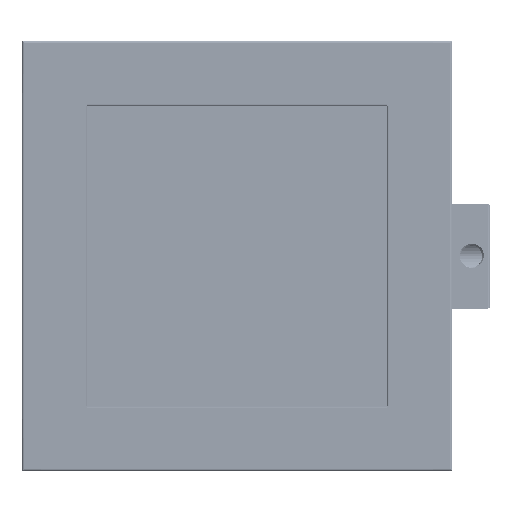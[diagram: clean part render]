
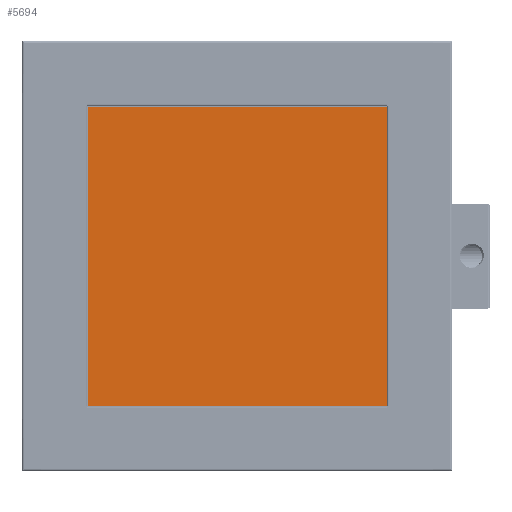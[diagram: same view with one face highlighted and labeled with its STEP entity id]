
A CAD part, front view. The second image highlights one B-rep face of the part: STEP entity #5694.
In plain terms, the highlighted planar face has unit normal (0, -1, 0).
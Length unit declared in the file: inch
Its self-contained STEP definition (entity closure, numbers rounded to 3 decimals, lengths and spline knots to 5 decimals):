
#1408 = FACE_OUTER_BOUND ( 'NONE', #9910, .T. ) ;
#2311 = DIRECTION ( 'NONE',  ( 0., 0., -1. ) ) ;
#2579 = CARTESIAN_POINT ( 'NONE',  ( 2.245, 0., -2.245 ) ) ;
#2685 = CARTESIAN_POINT ( 'NONE',  ( 0.095, 0., -2.245 ) ) ;
#4888 = LINE ( 'NONE', #13666, #5130 ) ;
#5130 = VECTOR ( 'NONE', #20304, 39.37008 ) ;
#5694 = ADVANCED_FACE ( 'NONE', ( #1408 ), #10201, .T. ) ;
#7039 = DIRECTION ( 'NONE',  ( 0., 0., 1. ) ) ;
#7093 = VERTEX_POINT ( 'NONE', #17727 ) ;
#7729 = VERTEX_POINT ( 'NONE', #28408 ) ;
#9035 = EDGE_CURVE ( 'NONE', #17307, #7093, #18268, .T. ) ;
#9910 = EDGE_LOOP ( 'NONE', ( #11873, #16632, #16730, #23016 ) ) ;
#10201 = PLANE ( 'NONE',  #16611 ) ;
#11873 = ORIENTED_EDGE ( 'NONE', *, *, #9035, .T. ) ;
#13666 = CARTESIAN_POINT ( 'NONE',  ( 2.245, 0., -0.095 ) ) ;
#15524 = LINE ( 'NONE', #2685, #21210 ) ;
#15565 = CARTESIAN_POINT ( 'NONE',  ( 0.095, 0., -0.095 ) ) ;
#16611 = AXIS2_PLACEMENT_3D ( 'NONE', #16970, #25753, #23603 ) ;
#16632 = ORIENTED_EDGE ( 'NONE', *, *, #24882, .T. ) ;
#16730 = ORIENTED_EDGE ( 'NONE', *, *, #21432, .T. ) ;
#16949 = CARTESIAN_POINT ( 'NONE',  ( 2.245, 0., -2.245 ) ) ;
#16970 = CARTESIAN_POINT ( 'NONE',  ( 0., 0., -2.34 ) ) ;
#17307 = VERTEX_POINT ( 'NONE', #16949 ) ;
#17727 = CARTESIAN_POINT ( 'NONE',  ( 2.245, 0., -0.095 ) ) ;
#18268 = LINE ( 'NONE', #2579, #19452 ) ;
#19452 = VECTOR ( 'NONE', #7039, 39.37008 ) ;
#20276 = DIRECTION ( 'NONE',  ( 1., 0., 0. ) ) ;
#20304 = DIRECTION ( 'NONE',  ( -1., 0., 0. ) ) ;
#20367 = VERTEX_POINT ( 'NONE', #22722 ) ;
#21210 = VECTOR ( 'NONE', #20276, 39.37008 ) ;
#21432 = EDGE_CURVE ( 'NONE', #7729, #20367, #24216, .T. ) ;
#21609 = VECTOR ( 'NONE', #2311, 39.37008 ) ;
#22722 = CARTESIAN_POINT ( 'NONE',  ( 0.095, 0., -2.245 ) ) ;
#23016 = ORIENTED_EDGE ( 'NONE', *, *, #23081, .T. ) ;
#23081 = EDGE_CURVE ( 'NONE', #20367, #17307, #15524, .T. ) ;
#23603 = DIRECTION ( 'NONE',  ( 0., 0., -1. ) ) ;
#24216 = LINE ( 'NONE', #15565, #21609 ) ;
#24882 = EDGE_CURVE ( 'NONE', #7093, #7729, #4888, .T. ) ;
#25753 = DIRECTION ( 'NONE',  ( 0., -1., 0. ) ) ;
#28408 = CARTESIAN_POINT ( 'NONE',  ( 0.095, 0., -0.095 ) ) ;
